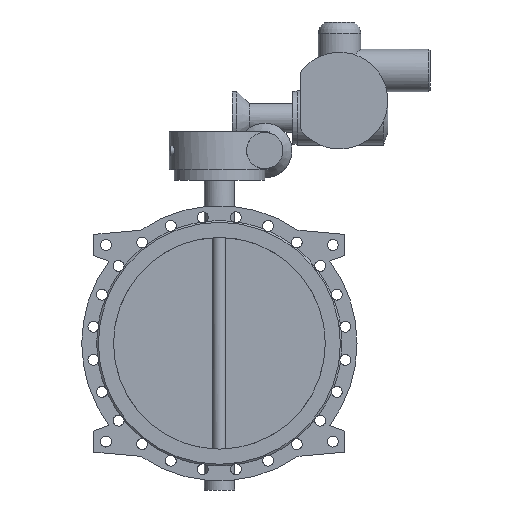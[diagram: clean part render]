
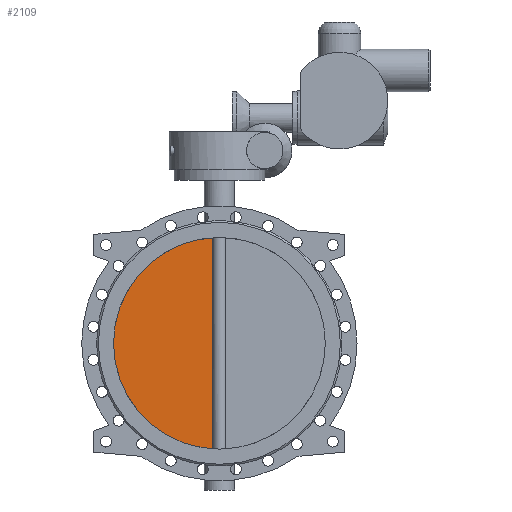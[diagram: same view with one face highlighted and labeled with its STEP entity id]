
A CAD part, front view. The second image highlights one B-rep face of the part: STEP entity #2109.
In plain terms, the highlighted planar face has unit normal (0, -1, 0).
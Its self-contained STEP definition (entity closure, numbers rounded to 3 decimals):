
#2109=ADVANCED_FACE('',(#4178),#4180,.T.);
#4178=FACE_BOUND('',#4179,.T.);
#4179=EDGE_LOOP('',(#5401,#5402));
#4180=PLANE('',#4181);
#4181=AXIS2_PLACEMENT_3D('',#4182,#4183,#4184);
#4182=CARTESIAN_POINT('',(0.,-7.5,0.));
#4183=DIRECTION('',(0.,-1.,0.));
#4184=DIRECTION('',(1.,0.,0.));
#5401=ORIENTED_EDGE('',*,*,#6003,.T.);
#5402=ORIENTED_EDGE('',*,*,#6012,.T.);
#6003=EDGE_CURVE('',#7072,#7070,#7073,.F.);
#6012=EDGE_CURVE('',#7070,#7072,#7088,.F.);
#7070=VERTEX_POINT('',#15404);
#7072=VERTEX_POINT('',#15511);
#7073=CIRCLE('',#15512,350.);
#7088=LINE('',#15831,#15832);
#15404=CARTESIAN_POINT('',(-21.213,-7.5,-349.357));
#15511=CARTESIAN_POINT('',(-21.213,-7.5,349.357));
#15512=AXIS2_PLACEMENT_3D('',#15513,#15514,#15515);
#15513=CARTESIAN_POINT('',(0.,-7.5,0.));
#15514=DIRECTION('',(0.,1.,0.));
#15515=DIRECTION('',(-0.061,0.,-0.998));
#15831=CARTESIAN_POINT('',(-21.213,-7.5,349.357));
#15832=VECTOR('',#15833,1.);
#15833=DIRECTION('',(0.,0.,-1.));
